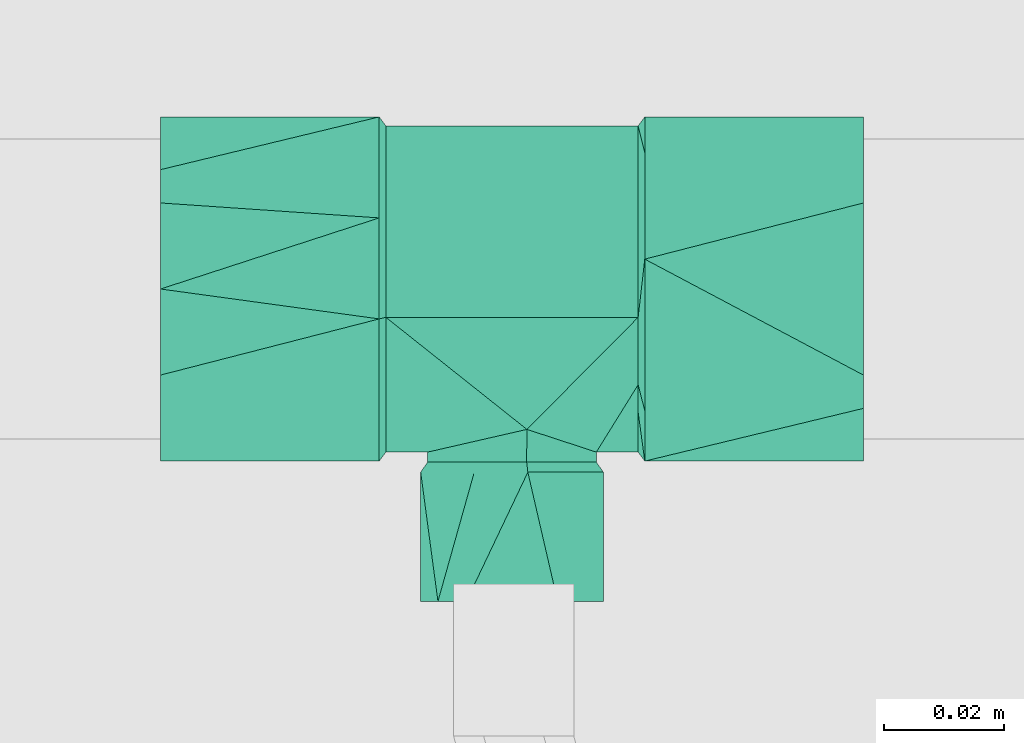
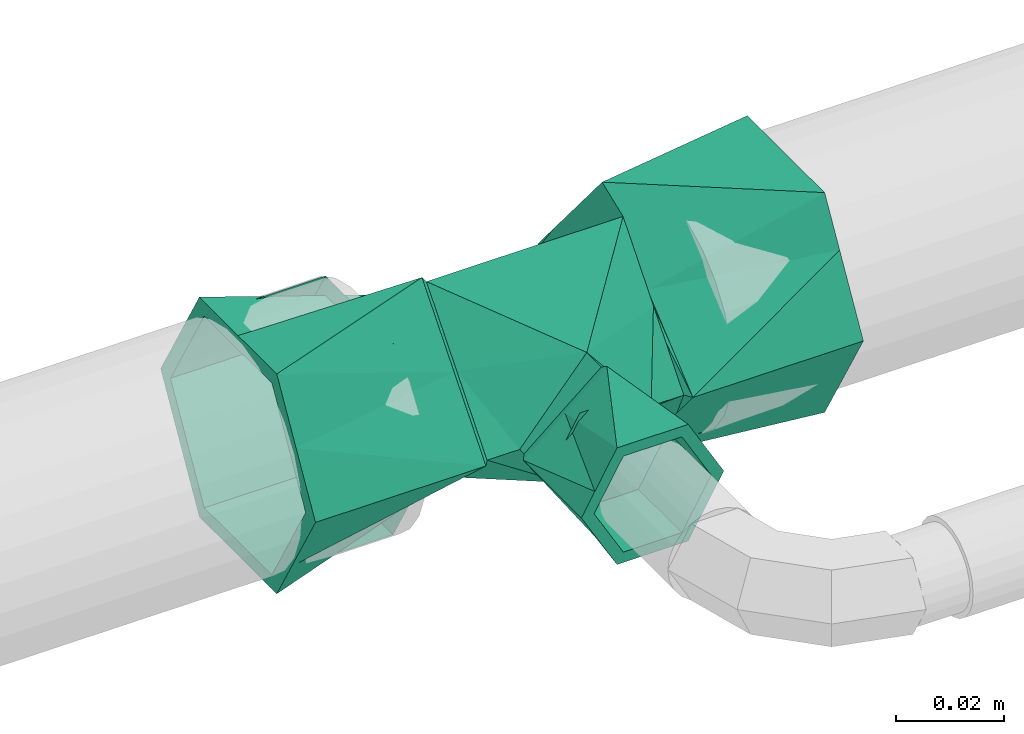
# One storey, part 89 of 166: 1 flow fitting.
"""IFC2X3 building model written with IfcOpenShell, lengths in metres."""

from ifc_helpers import new_model, entity, si_unit, converted_unit, direction, frame, origin, place, context, subcontext, project, spatial, faceted_brep, source, transform, mapped, material, type_object, type_shapes, element, save


model = new_model("IFC2X3")

# Units and contexts
model_context = context("Model", 3, precision=1e-05, world=origin(), true_north=direction((6.123233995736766e-17, 1.0)))
body_context = subcontext(model_context, "Body", "Model", "MODEL_VIEW")
ifc_project = project(units=[si_unit("LENGTHUNIT", "METRE"), converted_unit("PLANEANGLEUNIT", "DEGREE", entity("IfcPlaneAngleMeasure", 0.017453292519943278), si_unit("PLANEANGLEUNIT", "RADIAN"), dimensions=[0, 0, 0, 0, 0, 0, 0]), si_unit("AREAUNIT", "SQUARE_METRE")], contexts=[model_context])

# Site, building, storey
site_placement = place(None, origin())
site = spatial("IfcSite", under=ifc_project, at=site_placement, Name="Default", CompositionType="ELEMENT")
building_placement = place(site_placement, origin())
building = spatial("IfcBuilding", under=site, at=building_placement, Name="CASA DE ACOLHIDA PARA IDOSOS", CompositionType="ELEMENT")
storey_placement = place(building_placement, frame((0.0, 0.0, -1.7499999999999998)))
storey = spatial("IfcBuildingStorey", under=building, at=storey_placement, Name="IMPLANTAÇÃO DRENAGEM", CompositionType="ELEMENT", Elevation=-1.7499999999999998)

# Flow fitting
ifc_material = material(Name="PVC Branco")
pipe_fitting_type = type_object("IfcPipeFittingType", Name="AF_Roscavel_Te_Reducao:Standard", PredefinedType="NOTDEFINED", material=ifc_material)
shared_shape = source(origin(), body_context, "Body", "Brep", [
    faceted_brep([(-0.022099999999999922, 0.022730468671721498, -0.007053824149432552), (-0.022099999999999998, 0.028649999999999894, 0.0), (-0.021, 0.027149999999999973, 0.0), (-0.02099999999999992, 0.019184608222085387, -0.006684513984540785), (-0.020999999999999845, 0.011219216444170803, -0.013369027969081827), (-0.022099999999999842, 0.0168109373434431, -0.014107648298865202), (-0.020999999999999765, 0.0032538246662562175, -0.02005354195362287), (-0.022099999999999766, 0.010891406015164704, -0.02116147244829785), (-0.020999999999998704, -0.015930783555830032, -0.013369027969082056), (-0.022099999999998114, -0.020244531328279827, -0.007053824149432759), (-0.022099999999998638, -0.01183906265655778, -0.01410764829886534), (-0.020999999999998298, -0.02051095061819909, -0.007911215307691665), (-0.02209999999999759, -0.02865000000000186, 0.0), (-0.020999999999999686, -0.004711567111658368, -0.02673805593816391), (-0.02209999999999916, -0.0034335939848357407, -0.021161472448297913), (-0.022099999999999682, 0.004971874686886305, -0.028215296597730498), (-0.020999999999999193, -0.010321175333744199, -0.02005354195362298), (-0.02099999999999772, -0.027150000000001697, 0.0), (-0.02210000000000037, -0.022732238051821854, 0.007053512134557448), (-0.021000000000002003, -0.019182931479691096, 0.006684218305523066), (-0.021000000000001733, -0.011215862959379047, 0.013368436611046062), (-0.022100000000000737, -0.0168144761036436, 0.014107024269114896), (-0.021000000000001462, -0.0032487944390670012, 0.020052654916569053), (-0.022100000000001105, -0.010896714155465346, 0.021160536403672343), (-0.022100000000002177, 0.020242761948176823, 0.007053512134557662), (-0.02100000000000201, 0.021542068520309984, 0.006684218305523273), (-0.022100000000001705, 0.0034282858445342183, 0.021160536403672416), (-0.021000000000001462, 0.010326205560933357, 0.020052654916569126), (-0.022100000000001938, 0.01183552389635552, 0.014107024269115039), (-0.021000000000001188, 0.004718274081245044, 0.02673687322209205), (-0.022100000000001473, -0.004978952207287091, 0.028214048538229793), (-0.021000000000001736, 0.01593413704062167, 0.013368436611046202), (-0.02099999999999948, 0.018449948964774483, 0.010369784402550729), (0.021, 0.027149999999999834, 0.0), (0.021000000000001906, 0.004718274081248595, 0.026736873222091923), (0.021000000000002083, 0.010326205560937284, 0.02005265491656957), (0.021000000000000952, 0.015934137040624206, 0.013368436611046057), (0.021000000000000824, 0.020511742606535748, 0.007912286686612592), (0.021, -0.027150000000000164, 0.0), (0.0024774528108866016, -0.023369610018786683, 0.013819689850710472), (0.008258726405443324, -0.025259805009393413, 0.006909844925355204), (0.014040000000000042, -0.027150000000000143, 0.0), (-0.014039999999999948, -0.02715000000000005, 0.0), (-0.008913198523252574, -0.02597661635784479, 0.004289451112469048), (-0.0057812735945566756, -0.02525980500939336, 0.0069098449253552), (0.021000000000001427, -0.01918293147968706, 0.006684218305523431), (0.021000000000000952, -0.011215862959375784, 0.013368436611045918), (0.02100000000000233, -0.00324879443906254, 0.020052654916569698), (0.02099999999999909, 0.019607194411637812, -0.006329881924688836), (0.020999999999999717, 0.011219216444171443, -0.013369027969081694), (0.02099999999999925, 0.003253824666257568, -0.02005354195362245), (0.020999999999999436, -0.004711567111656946, -0.02673805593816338), (-0.0024814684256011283, -0.023370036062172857, -0.013818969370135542), (0.020999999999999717, -0.015930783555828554, -0.013369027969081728), (0.008912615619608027, -0.025976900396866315, -0.004288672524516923), (0.005779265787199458, -0.025260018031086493, -0.006909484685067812), (-0.00826073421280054, -0.025260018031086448, -0.006909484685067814), (0.020999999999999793, -0.020510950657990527, -0.007911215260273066), (0.020999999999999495, -0.010321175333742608, -0.020053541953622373), (0.02210000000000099, 0.01681093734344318, 0.014107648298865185), (0.022100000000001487, 0.01089140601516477, 0.021161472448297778), (0.022100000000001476, -0.012730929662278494, 0.013359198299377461), (0.022100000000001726, -0.003879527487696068, 0.020787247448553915), (0.022100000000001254, -0.020690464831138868, 0.006679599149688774), (0.022100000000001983, 0.004971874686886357, 0.02821529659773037), (0.0221, 0.028650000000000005, 0.0), (0.022100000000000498, 0.022730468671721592, 0.007053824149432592), (0.022100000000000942, -0.011839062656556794, 0.014107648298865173), (0.022100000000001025, -0.02864999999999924, 0.0), (0.022099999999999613, -0.009809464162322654, -0.022456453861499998), (0.022099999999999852, -0.021644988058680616, -0.008349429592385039), (0.02209999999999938, 0.0034282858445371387, -0.02116053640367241), (0.022099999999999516, -0.004978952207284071, -0.028214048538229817), (0.02209999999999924, 0.011835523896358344, -0.014107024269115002), (0.0220999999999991, 0.02024276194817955, -0.0070535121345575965), (0.02209999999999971, -0.014639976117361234, -0.01669885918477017), (0.022100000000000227, -0.016814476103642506, -0.014107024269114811), (-0.058500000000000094, -0.014325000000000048, -0.024811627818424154), (-0.058500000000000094, -0.025, 0.0), (-0.058500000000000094, -0.01997114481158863, -0.00871023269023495), (-0.0585000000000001, -0.019870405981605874, -0.015206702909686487), (-0.058500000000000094, -0.012500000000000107, -0.021650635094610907), (-0.058500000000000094, 0.0, -0.02165063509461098), (-0.058500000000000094, 0.012499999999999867, -0.021650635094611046), (-0.0585000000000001, 0.0, -0.024811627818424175), (-0.058500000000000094, -0.028650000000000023, 0.0), (-0.0585000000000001, -0.018750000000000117, 0.01082531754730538), (-0.058500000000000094, -0.012500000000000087, 0.021650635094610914), (-0.0585000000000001, -0.021487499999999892, 0.012405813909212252), (-0.058500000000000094, -0.014324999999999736, 0.02481162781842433), (-0.058500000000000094, 0.0, 0.021650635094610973), (-0.058500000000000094, 0.012499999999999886, 0.021650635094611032), (-0.0585000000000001, 0.0, 0.02481162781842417), (-0.058500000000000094, 0.014325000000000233, 0.024811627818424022), (-0.0585000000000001, 0.019870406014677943, 0.015206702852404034), (-0.058500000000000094, 0.02864999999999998, 0.0), (-0.058500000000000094, 0.019971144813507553, 0.00871023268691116), (-0.058500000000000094, 0.025, 0.0), (-0.0585000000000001, 0.021487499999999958, -0.012405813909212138), (-0.058500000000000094, 0.014324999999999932, -0.0248116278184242), (-0.058500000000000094, 0.018749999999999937, -0.010825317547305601), (0.0585000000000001, 0.021487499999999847, 0.012405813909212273), (0.058500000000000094, 0.028650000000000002, 0.0), (0.058500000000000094, -0.028650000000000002, 0.0), (0.0585000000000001, -0.01987040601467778, 0.015206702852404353), (0.0585000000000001, -0.021487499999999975, -0.012405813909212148), (0.0585000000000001, 0.019870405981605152, -0.015206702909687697), (0.058500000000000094, 0.014325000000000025, -0.024811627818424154), (0.058500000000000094, 0.024999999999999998, 0.0), (0.058500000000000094, 0.019971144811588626, -0.00871023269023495), (0.058500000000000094, 0.012500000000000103, -0.021650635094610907), (0.058500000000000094, 0.0, -0.02165063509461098), (0.058500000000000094, -0.012499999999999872, -0.021650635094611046), (0.0585000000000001, 0.0, -0.024811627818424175), (0.0585000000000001, 0.01875000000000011, 0.01082531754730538), (0.058500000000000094, 0.012500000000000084, 0.021650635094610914), (0.058500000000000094, 0.014324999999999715, 0.02481162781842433), (0.058500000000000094, 0.0, 0.021650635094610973), (0.058500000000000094, -0.012499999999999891, 0.021650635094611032), (0.0585000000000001, 0.0, 0.02481162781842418), (0.058500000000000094, -0.014325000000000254, 0.024811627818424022), (0.058500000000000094, -0.019971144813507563, 0.00871023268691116), (0.058500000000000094, -0.025000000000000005, 0.0), (0.058500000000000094, -0.014324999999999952, -0.0248116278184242), (0.058500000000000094, -0.018749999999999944, -0.010825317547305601), (-0.032600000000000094, -0.025, 0.0), (-0.032600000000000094, -0.019971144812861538, 0.00871023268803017), (-0.032600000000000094, -0.012500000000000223, 0.021650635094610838), (-0.032600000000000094, 0.0, 0.021650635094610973), (-0.032600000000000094, 0.012499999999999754, 0.02165063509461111), (-0.032600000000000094, 0.018749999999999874, 0.010825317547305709), (-0.032600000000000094, 0.025, 0.0), (-0.032600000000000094, 0.019971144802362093, -0.008710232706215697), (-0.032600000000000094, 0.012500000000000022, -0.021650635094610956), (-0.032600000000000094, 0.0, -0.02165063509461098), (-0.032600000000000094, -0.012499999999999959, -0.021650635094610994), (-0.032600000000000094, -0.018749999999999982, -0.010825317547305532), (0.03260000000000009, -0.025, 0.0), (0.032600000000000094, -0.018749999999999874, 0.010825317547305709), (0.032600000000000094, -0.012499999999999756, 0.02165063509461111), (0.032600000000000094, 0.0, 0.021650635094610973), (0.032600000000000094, 0.012500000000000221, 0.021650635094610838), (0.032600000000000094, 0.019971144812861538, 0.00871023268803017), (0.032600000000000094, 0.025, 0.0), (0.032600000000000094, 0.018749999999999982, -0.010825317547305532), (0.032600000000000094, 0.012499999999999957, -0.021650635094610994), (0.032600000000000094, 0.0, -0.02165063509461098), (0.032600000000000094, -0.012500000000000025, -0.021650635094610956), (0.032600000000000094, -0.019971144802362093, -0.008710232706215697), (0.012500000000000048, -0.03589999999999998, 0.0), (0.006250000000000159, -0.035899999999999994, 0.010825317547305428), (-0.0062499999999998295, -0.03590000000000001, 0.010825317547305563), (-0.012499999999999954, -0.03590000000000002, 0.0), (-0.006249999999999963, -0.03590000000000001, -0.010825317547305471), (0.006250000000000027, -0.035899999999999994, -0.01082531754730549), (0.012500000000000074, -0.05199999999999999, 0.0), (0.006250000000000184, -0.052, 0.010825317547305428), (-0.006249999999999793, -0.05200000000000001, 0.01082531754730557), (-0.01249999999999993, -0.052000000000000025, 0.0), (-0.006249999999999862, -0.05200000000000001, -0.010825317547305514), (0.006250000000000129, -0.052, -0.010825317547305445), (-0.011620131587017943, -0.028800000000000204, -0.0028835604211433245), (-0.01403999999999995, -0.02880000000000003, 0.0), (-0.002436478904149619, -0.028800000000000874, -0.013826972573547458), (-0.008238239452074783, -0.02880000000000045, -0.006913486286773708), (0.0030428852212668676, -0.028800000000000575, -0.009228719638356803), (0.014040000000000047, -0.02879999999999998, 0.0), (0.008541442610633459, -0.02880000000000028, -0.004614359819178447), (0.005801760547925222, -0.02880000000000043, -0.006913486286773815), (0.011620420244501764, -0.028799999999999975, 0.002883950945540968), (0.002439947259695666, -0.028799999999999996, 0.01382636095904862), (0.008239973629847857, -0.028799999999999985, 0.00691318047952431), (-0.0030421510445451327, -0.028800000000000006, 0.00922698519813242), (-0.008541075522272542, -0.028800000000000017, 0.004613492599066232), (-0.005800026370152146, -0.028800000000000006, 0.006913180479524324), (0.0026415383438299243, -0.030500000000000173, 0.01496870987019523), (0.008920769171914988, -0.03050000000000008, 0.007484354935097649), (0.010065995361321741, -0.030500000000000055, 0.006119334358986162), (0.015200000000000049, -0.03049999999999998, 0.0), (-0.015199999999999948, -0.03050000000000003, 0.0), (-0.006279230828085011, -0.0305000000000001, 0.007484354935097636), (-0.0026377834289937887, -0.030500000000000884, -0.01496937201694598), (-0.008918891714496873, -0.03050000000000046, -0.007484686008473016), (-0.010065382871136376, -0.030500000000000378, -0.006118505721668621), (0.006281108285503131, -0.03050000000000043, -0.007484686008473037), (0.007600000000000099, -0.052, -0.01316358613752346), (0.012327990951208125, -0.05199999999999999, -0.004974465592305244), (0.0, -0.052000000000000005, -0.01316358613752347), (0.015200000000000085, -0.051999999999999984, 0.0), (0.011400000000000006, -0.05199999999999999, 0.00658179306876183), (0.007599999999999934, -0.052, 0.013163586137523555), (0.0, -0.052000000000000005, 0.013163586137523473), (-0.007600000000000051, -0.05200000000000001, 0.01316358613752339), (-0.012327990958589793, -0.052000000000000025, 0.00497446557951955), (-0.015199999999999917, -0.05200000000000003, 0.0), (-0.011399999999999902, -0.052000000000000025, -0.006581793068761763), (-0.007599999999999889, -0.05200000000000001, -0.013163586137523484)], [[[0, 1, 2]], [[3, 4, 5]], [[6, 7, 4]], [[8, 9, 10]], [[11, 12, 9]], [[13, 14, 15]], [[14, 16, 10]], [[16, 14, 13]], [[2, 3, 0]], [[9, 8, 11]], [[11, 17, 12]], [[7, 6, 15]], [[6, 13, 15]], [[5, 4, 7]], [[16, 8, 10]], [[3, 5, 0]], [[18, 12, 17]], [[19, 20, 21]], [[22, 23, 20]], [[1, 24, 25]], [[25, 2, 1]], [[26, 27, 28]], [[29, 26, 30]], [[27, 26, 29]], [[17, 19, 18]], [[23, 22, 30]], [[24, 28, 31]], [[22, 29, 30]], [[21, 20, 23]], [[27, 31, 28]], [[19, 21, 18]], [[24, 31, 32, 25]], [[33, 2, 25, 32, 31, 27, 29, 34, 35, 36, 37]], [[38, 39, 40, 41]], [[20, 42, 43, 44, 39]], [[39, 38, 45, 46]], [[20, 39, 46]], [[34, 29, 22, 20, 46, 47]], [[42, 20, 19, 17]], [[4, 3, 2, 33, 48, 49, 50, 51, 13, 6]], [[51, 52, 13]], [[53, 41, 54, 55, 52]], [[8, 52, 56, 42]], [[42, 17, 11, 8]], [[41, 53, 57, 38]], [[52, 51, 58, 53]], [[52, 8, 16, 13]], [[36, 35, 59, 37]], [[34, 60, 35]], [[46, 45, 61]], [[47, 46, 62]], [[38, 63, 45]], [[64, 34, 47]], [[65, 33, 66]], [[60, 34, 64]], [[46, 61, 67, 62]], [[64, 47, 62]], [[33, 37, 66]], [[37, 59, 66]], [[63, 38, 68]], [[63, 61, 45]], [[60, 59, 35]], [[51, 69, 58]], [[68, 38, 70]], [[51, 71, 72]], [[73, 49, 74]], [[75, 53, 58]], [[33, 65, 48]], [[50, 73, 71]], [[53, 75, 76, 70]], [[48, 74, 49]], [[73, 50, 49]], [[51, 50, 71]], [[38, 57, 53, 70]], [[48, 65, 74]], [[69, 51, 72]], [[69, 75, 58]], [[77, 78, 79]], [[78, 77, 80]], [[77, 79, 81]], [[77, 81, 82]], [[77, 82, 83]], [[83, 84, 77]], [[78, 80, 85]], [[85, 86, 78]], [[85, 87, 86]], [[87, 85, 88]], [[87, 88, 89]], [[89, 90, 87]], [[89, 91, 90]], [[91, 89, 92]], [[91, 92, 93]], [[91, 93, 94]], [[91, 94, 95]], [[95, 96, 91]], [[95, 97, 96]], [[97, 95, 98]], [[97, 98, 99]], [[99, 83, 100]], [[83, 99, 84]], [[99, 100, 97]], [[28, 94, 93]], [[94, 28, 24, 1]], [[1, 95, 94]], [[65, 101, 102]], [[12, 88, 85]], [[68, 103, 104]], [[89, 21, 23, 30]], [[21, 89, 88]], [[88, 12, 18, 21]], [[92, 30, 26, 28]], [[30, 92, 89]], [[28, 93, 92]], [[10, 80, 77]], [[80, 10, 9, 12]], [[12, 85, 80]], [[68, 105, 103]], [[1, 98, 95]], [[65, 102, 106]], [[99, 5, 7, 15]], [[5, 99, 98]], [[98, 1, 0, 5]], [[15, 77, 84, 99]], [[77, 15, 14, 10]], [[107, 108, 109]], [[108, 107, 106]], [[107, 109, 110]], [[107, 110, 111]], [[107, 111, 112]], [[112, 113, 107]], [[108, 106, 102]], [[102, 114, 108]], [[102, 115, 114]], [[115, 102, 101]], [[115, 101, 116]], [[116, 117, 115]], [[116, 118, 117]], [[118, 116, 119]], [[118, 119, 120]], [[118, 120, 104]], [[118, 104, 103]], [[103, 121, 118]], [[103, 122, 121]], [[122, 103, 105]], [[122, 105, 123]], [[123, 112, 124]], [[112, 123, 113]], [[123, 124, 122]], [[67, 104, 120]], [[104, 67, 61, 63, 68]], [[116, 59, 60, 64]], [[59, 116, 101]], [[101, 65, 66, 59]], [[64, 120, 119, 116]], [[120, 64, 62, 67]], [[73, 106, 107]], [[106, 73, 74, 65]], [[123, 76, 75, 69, 72]], [[76, 123, 105]], [[105, 68, 70, 76]], [[113, 72, 71, 73]], [[72, 113, 123]], [[73, 107, 113]], [[125, 126, 127, 128, 129, 130, 131, 132, 133, 134, 135, 136]], [[87, 127, 126, 125, 78, 86]], [[137, 138, 139, 118, 121, 122]], [[129, 128, 127, 87, 90, 91]], [[139, 140, 141, 115, 117, 118]], [[131, 130, 129, 91, 96, 97]], [[115, 141, 142, 143, 108, 114]], [[83, 133, 132, 131, 97, 100]], [[143, 144, 145, 110, 109, 108]], [[135, 134, 133, 83, 82, 81]], [[145, 146, 147, 112, 111, 110]], [[125, 136, 135, 81, 79, 78]], [[112, 147, 148, 137, 122, 124]], [[143, 142, 141, 140, 139, 138, 137, 148, 147, 146, 145, 144]], [[149, 150, 151, 152, 153, 154]], [[155, 156, 150, 149]], [[156, 157, 151, 150]], [[157, 158, 152, 151]], [[158, 159, 153, 152]], [[159, 160, 154, 153]], [[160, 155, 149, 154]], [[42, 161, 162]], [[56, 163, 164, 161]], [[163, 56, 52]], [[165, 163, 52]], [[166, 167, 41]], [[55, 167, 168, 165]], [[55, 54, 41, 167]], [[165, 52, 55]], [[56, 161, 42]], [[41, 169, 166]], [[40, 170, 171, 169]], [[170, 40, 39]], [[172, 170, 39]], [[162, 173, 42]], [[44, 173, 174, 172]], [[44, 43, 42, 173]], [[172, 39, 44]], [[40, 169, 41]], [[175, 176, 177, 178, 166, 169, 171, 170]], [[170, 172, 174, 173, 162, 179, 180, 175]], [[181, 182, 183, 179, 162, 161, 164, 163]], [[163, 165, 168, 167, 166, 178, 184, 181]], [[185, 155, 160]], [[155, 185, 186]], [[185, 160, 159]], [[159, 187, 185]], [[155, 186, 188]], [[156, 155, 188]], [[156, 188, 189]], [[156, 189, 190]], [[156, 190, 157]], [[157, 190, 191]], [[157, 191, 192]], [[157, 192, 193]], [[157, 193, 194]], [[194, 158, 157]], [[158, 194, 195]], [[158, 195, 196]], [[196, 159, 158]], [[159, 196, 187]], [[180, 193, 192]], [[180, 179, 193]], [[179, 194, 193]], [[178, 189, 188]], [[175, 190, 176]], [[176, 190, 189]], [[189, 178, 177, 176]], [[180, 191, 175]], [[175, 191, 190]], [[180, 192, 191]], [[184, 186, 185]], [[184, 178, 186]], [[178, 188, 186]], [[179, 195, 194]], [[181, 196, 182]], [[182, 196, 195]], [[195, 179, 183, 182]], [[181, 185, 187, 196]], [[181, 184, 185]]]),
])
type_shapes(pipe_fitting_type, [shared_shape])
flow_fitting_placement = place(storey_placement, frame((-5.990948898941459, 9.654942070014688, -0.19999999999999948), z_axis=(0.0, 0.0, -1.0), x_axis=(-1.0, 0.0, 0.0)))
element("IfcFlowFitting", 1, at=flow_fitting_placement, inside=storey, type_object=pipe_fitting_type, material=ifc_material, Name="AF_Roscavel_Te_Reducao:Standard", ObjectType="AF_Roscavel_Te_Reducao:Standard", context=body_context, shape_type="MappedRepresentation", body=[
    mapped(shared_shape, transform((0.0, 0.0, 0.0), scale=1.0)),
])

save(model, "model.ifc")
